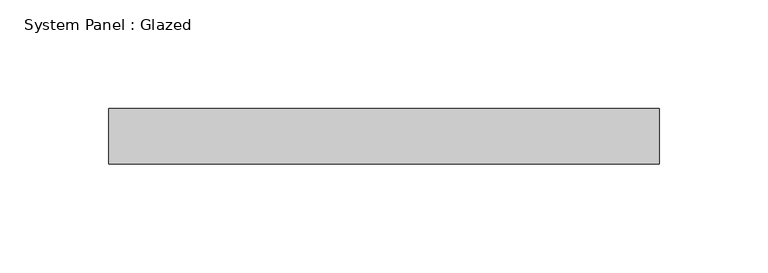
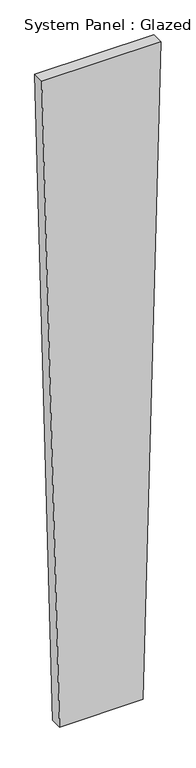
"""IFC4 building model written with IfcOpenShell, lengths in millimetres: plate geometry, System Panel : Glazed."""

from ifc_helpers import new_model, si_unit, frame, origin, place, context, project, spatial, polyline, outline, extrude, source, transform, mapped, element, save


def system_panel_glazed_176c9cdb(model_context):
    return source(origin(), model_context, "Body", "SweptSolid", [
        extrude(outline(polyline([(0.0, -88.8208116), (0.0, 88.8208116), (1459.9947338, 126.4254936), (1459.9947338, -126.4254936), (0.0, -88.8208116)])), frame((0.0, -44.45, 0.0), z_axis=(0.0, 1.0, 0.0), x_axis=(0.0, 0.0, 1.0)), (0.0, 0.0, 1.0), 25.4),
    ])


if __name__ == "__main__":
    model = new_model("IFC4")
    model_context = context("Model", 3, world=origin())
    ifc_project = project(units=[si_unit("LENGTHUNIT", "METRE", prefix="MILLI")], contexts=[model_context])
    site = spatial("IfcSite", under=ifc_project)
    building = spatial("IfcBuilding", under=site)
    placement = place(None, origin())
    system_panel_glazed_shape = system_panel_glazed_176c9cdb(model_context)
    element("IfcPlate", 1, ObjectType="System Panel : Glazed", at=placement, inside=building, context=model_context, shape_type="MappedRepresentation", body=[
        mapped(system_panel_glazed_shape, transform((0.0, 0.0, 0.0), x_axis=(1.0, 0.0, 0.0), y_axis=(0.0, 1.0, 0.0), z_axis=(0.0, 0.0, 1.0))),
    ])
    save(model, "model.ifc")
